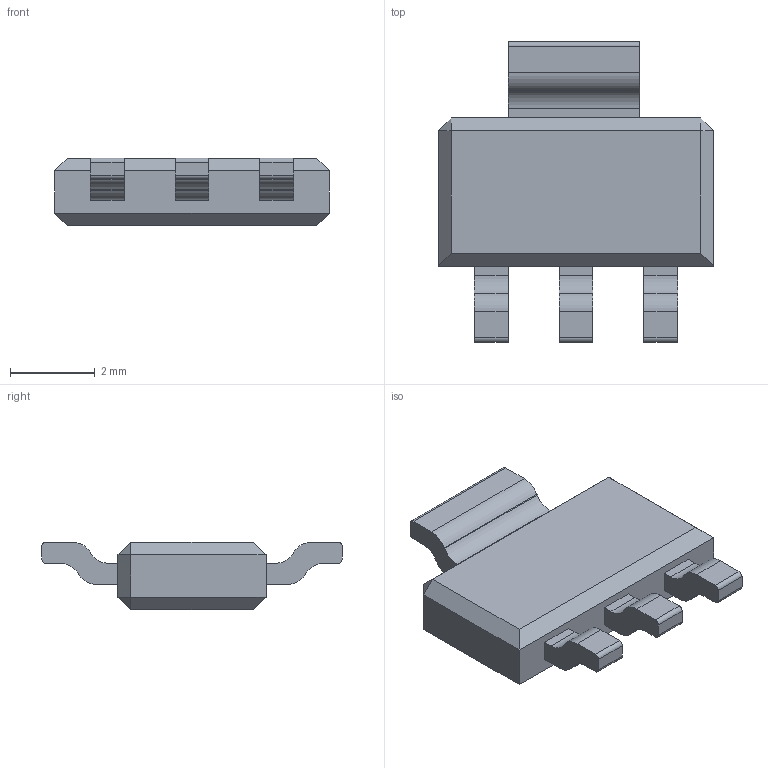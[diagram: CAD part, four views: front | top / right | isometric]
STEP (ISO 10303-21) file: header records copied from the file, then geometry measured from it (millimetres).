
FILE_DESCRIPTION (( 'STEP AP203' ), '1' );
FILE_NAME ('SOT89.stp.STEP', '2026-08-19T20:49:49', ( '' ), ( '' ), 'SwSTEP 2.0', 'SolidWorks 2024', '' );
FILE_SCHEMA (( 'CONFIG_CONTROL_DESIGN' ));
Length unit declared in the file: millimetre
Products named in the file (1): SOT89.stp
Bounding box: 6.5 x 7.1 x 1.6 mm (x, y, z)
Volume: 40.3 mm3; surface area: 99.2 mm2
Topology: 1 solids, 1 shells, 80 faces, 206 edges, 132 vertices
Faces by surface type: plane 56, cylinder 24
Entity records: 2485 total; most frequent: CARTESIAN_POINT 419, DIRECTION 416, ORIENTED_EDGE 412, EDGE_CURVE 206, LINE 158, VECTOR 158, VERTEX_POINT 132, AXIS2_PLACEMENT_3D 129
